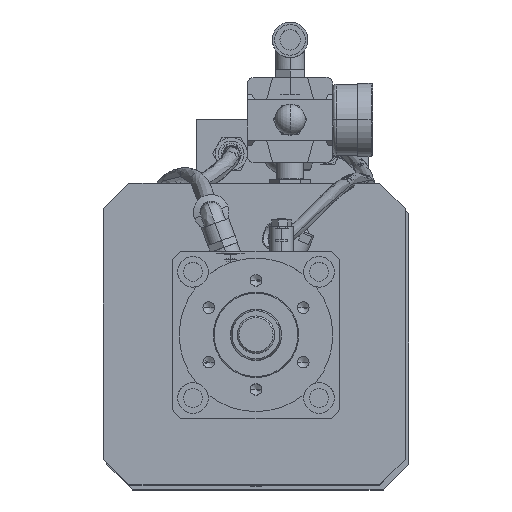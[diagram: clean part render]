
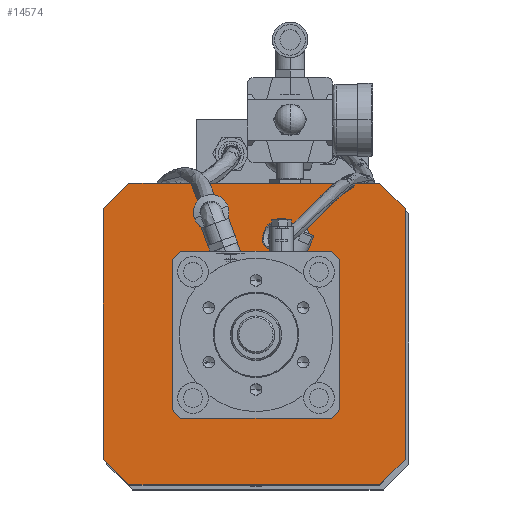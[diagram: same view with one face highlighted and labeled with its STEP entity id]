
A CAD part, top view. The second image highlights one B-rep face of the part: STEP entity #14574.
In plain terms, the highlighted planar face has unit normal (0, 0, 1).
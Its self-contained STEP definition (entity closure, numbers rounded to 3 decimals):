
#72 = CARTESIAN_POINT ( 'NONE',  ( 798.714, -1970.801, -1187.873 ) ) ;
#499 = ORIENTED_EDGE ( 'NONE', *, *, #24641, .F. ) ;
#997 = CARTESIAN_POINT ( 'NONE',  ( 798.714, -1955.801, -1187.873 ) ) ;
#1134 = CARTESIAN_POINT ( 'NONE',  ( 798.714, -2132.801, -1187.873 ) ) ;
#1410 = LINE ( 'NONE', #997, #7179 ) ;
#1785 = DIRECTION ( 'NONE',  ( 0.707, -0.707, 0. ) ) ;
#1952 = LINE ( 'NONE', #13933, #39291 ) ;
#2797 = EDGE_CURVE ( 'NONE', #40263, #20777, #31611, .T. ) ;
#3023 = DIRECTION ( 'NONE',  ( -0.707, 0.707, 0. ) ) ;
#3560 = VERTEX_POINT ( 'NONE', #12223 ) ;
#4861 = VERTEX_POINT ( 'NONE', #26222 ) ;
#5867 = ORIENTED_EDGE ( 'NONE', *, *, #35311, .F. ) ;
#5992 = CARTESIAN_POINT ( 'NONE',  ( 621.714, -1955.801, -1187.873 ) ) ;
#7179 = VECTOR ( 'NONE', #14235, 1000. ) ;
#7189 = VECTOR ( 'NONE', #3023, 1000. ) ;
#7912 = DIRECTION ( 'NONE',  ( 0., 0., -1. ) ) ;
#8494 = AXIS2_PLACEMENT_3D ( 'NONE', #23018, #7912, #35888 ) ;
#9253 = CARTESIAN_POINT ( 'NONE',  ( 798.714, -1955.801, -1187.873 ) ) ;
#9657 = VECTOR ( 'NONE', #1785, 1000. ) ;
#10218 = PLANE ( 'NONE',  #8494 ) ;
#10766 = DIRECTION ( 'NONE',  ( 0.707, 0.707, 0. ) ) ;
#10791 = LINE ( 'NONE', #14357, #28246 ) ;
#11744 = VERTEX_POINT ( 'NONE', #32422 ) ;
#11891 = EDGE_CURVE ( 'NONE', #32610, #3560, #1952, .T. ) ;
#12223 = CARTESIAN_POINT ( 'NONE',  ( 798.714, -2117.801, -1187.873 ) ) ;
#13933 = CARTESIAN_POINT ( 'NONE',  ( 783.714, -2132.801, -1187.873 ) ) ;
#14235 = DIRECTION ( 'NONE',  ( 1., 0., 0. ) ) ;
#14357 = CARTESIAN_POINT ( 'NONE',  ( 636.714, -1955.801, -1187.873 ) ) ;
#14574 = ADVANCED_FACE ( 'NONE', ( #32730 ), #10218, .F. ) ;
#15938 = EDGE_CURVE ( 'NONE', #11744, #21088, #10791, .T. ) ;
#16171 = VERTEX_POINT ( 'NONE', #38524 ) ;
#16264 = EDGE_CURVE ( 'NONE', #40263, #3560, #38097, .T. ) ;
#17489 = CARTESIAN_POINT ( 'NONE',  ( 783.714, -1955.801, -1187.873 ) ) ;
#18720 = VECTOR ( 'NONE', #24234, 1000. ) ;
#18905 = ORIENTED_EDGE ( 'NONE', *, *, #40517, .F. ) ;
#19291 = VECTOR ( 'NONE', #38204, 1000. ) ;
#20777 = VERTEX_POINT ( 'NONE', #17489 ) ;
#21088 = VERTEX_POINT ( 'NONE', #23590 ) ;
#23018 = CARTESIAN_POINT ( 'NONE',  ( 743.714, -2540.084, -1187.873 ) ) ;
#23506 = CARTESIAN_POINT ( 'NONE',  ( 798.714, -1970.801, -1187.873 ) ) ;
#23590 = CARTESIAN_POINT ( 'NONE',  ( 621.714, -1970.801, -1187.873 ) ) ;
#24234 = DIRECTION ( 'NONE',  ( -1., 0., 0. ) ) ;
#24295 = ORIENTED_EDGE ( 'NONE', *, *, #2797, .T. ) ;
#24641 = EDGE_CURVE ( 'NONE', #11744, #20777, #1410, .T. ) ;
#25503 = CARTESIAN_POINT ( 'NONE',  ( 783.714, -2132.801, -1187.873 ) ) ;
#26222 = CARTESIAN_POINT ( 'NONE',  ( 636.714, -2132.801, -1187.873 ) ) ;
#26592 = ORIENTED_EDGE ( 'NONE', *, *, #15938, .T. ) ;
#27553 = ORIENTED_EDGE ( 'NONE', *, *, #16264, .F. ) ;
#28246 = VECTOR ( 'NONE', #36455, 1000. ) ;
#29977 = LINE ( 'NONE', #1134, #18720 ) ;
#30948 = ORIENTED_EDGE ( 'NONE', *, *, #33599, .T. ) ;
#31611 = LINE ( 'NONE', #72, #7189 ) ;
#32158 = DIRECTION ( 'NONE',  ( 0., -1., 0. ) ) ;
#32422 = CARTESIAN_POINT ( 'NONE',  ( 636.714, -1955.801, -1187.873 ) ) ;
#32610 = VERTEX_POINT ( 'NONE', #25503 ) ;
#32730 = FACE_OUTER_BOUND ( 'NONE', #40236, .T. ) ;
#33007 = VECTOR ( 'NONE', #32158, 1000. ) ;
#33599 = EDGE_CURVE ( 'NONE', #16171, #4861, #39813, .T. ) ;
#34810 = LINE ( 'NONE', #5992, #19291 ) ;
#35311 = EDGE_CURVE ( 'NONE', #16171, #21088, #34810, .T. ) ;
#35888 = DIRECTION ( 'NONE',  ( -1., 0., 0. ) ) ;
#36455 = DIRECTION ( 'NONE',  ( -0.707, -0.707, 0. ) ) ;
#38097 = LINE ( 'NONE', #9253, #33007 ) ;
#38204 = DIRECTION ( 'NONE',  ( 0., 1., 0. ) ) ;
#38524 = CARTESIAN_POINT ( 'NONE',  ( 621.714, -2117.801, -1187.873 ) ) ;
#39287 = ORIENTED_EDGE ( 'NONE', *, *, #11891, .T. ) ;
#39291 = VECTOR ( 'NONE', #10766, 1000. ) ;
#39813 = LINE ( 'NONE', #40052, #9657 ) ;
#40052 = CARTESIAN_POINT ( 'NONE',  ( 621.714, -2117.801, -1187.873 ) ) ;
#40236 = EDGE_LOOP ( 'NONE', ( #27553, #24295, #499, #26592, #5867, #30948, #18905, #39287 ) ) ;
#40263 = VERTEX_POINT ( 'NONE', #23506 ) ;
#40517 = EDGE_CURVE ( 'NONE', #32610, #4861, #29977, .T. ) ;
